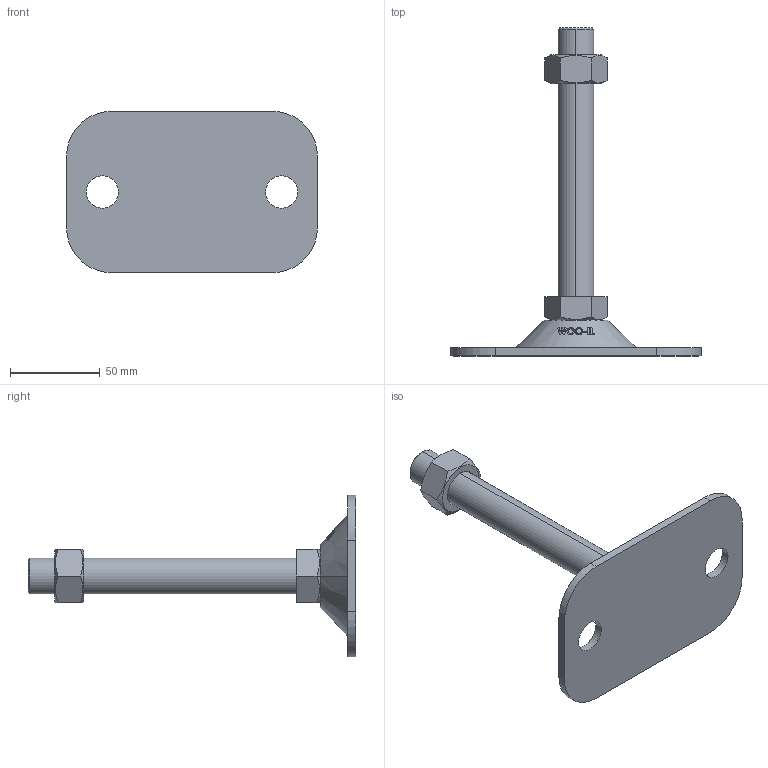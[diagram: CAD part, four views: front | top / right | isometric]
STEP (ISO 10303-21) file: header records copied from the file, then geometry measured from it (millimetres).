
FILE_DESCRIPTION (( 'STEP AP214' ), '1' );
FILE_NAME ('FABL90140-M20-150.step', '2021-03-28T23:53:25', ( '' ), ( '' ), 'SwSTEP 2.0', 'SolidWorks 2019', '' );
FILE_SCHEMA (( 'AUTOMOTIVE_DESIGN' ));
Length unit declared in the file: millimetre
Products named in the file (2): FABL90140-M20-150
Bounding box: 140 x 183 x 90 mm (x, y, z)
Volume: 149799.1 mm3; surface area: 40946.4 mm2
Topology: 2 solids, 2 shells, 130 faces, 337 edges, 222 vertices
Faces by surface type: plane 50, cylinder 40, cone 22, bspline 18
Entity records: 5615 total; most frequent: CARTESIAN_POINT 2637, ORIENTED_EDGE 674, DIRECTION 485, EDGE_CURVE 337, VERTEX_POINT 222, AXIS2_PLACEMENT_3D 178, EDGE_LOOP 147, B_SPLINE_CURVE_WITH_KNOTS 144
